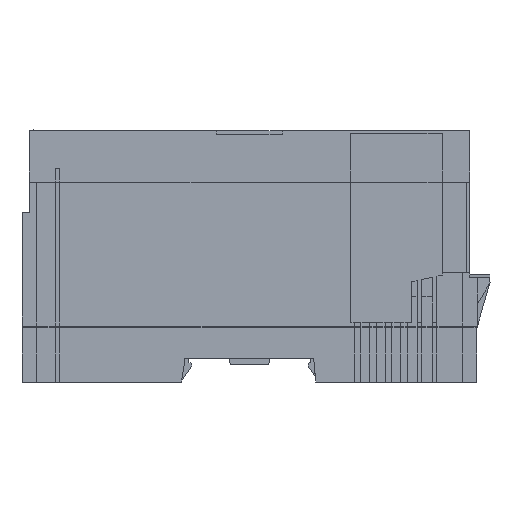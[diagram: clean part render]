
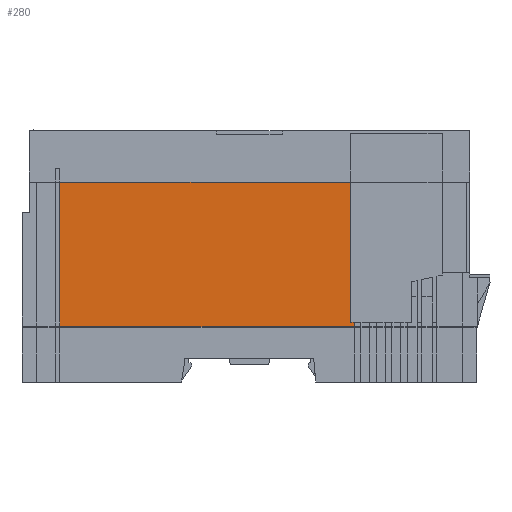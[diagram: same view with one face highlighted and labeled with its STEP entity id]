
A CAD part, front view. The second image highlights one B-rep face of the part: STEP entity #280.
In plain terms, the highlighted free-form (B-spline) face has degree [1, 1] with [2, 2] control points.
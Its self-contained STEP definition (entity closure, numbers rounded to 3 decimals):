
#280=ADVANCED_FACE('',(#540),#3581,.T.);
#540=FACE_OUTER_BOUND('',#795,.T.);
#795=EDGE_LOOP('',(#1475,#1476,#1477,#1478,#1479,#1480));
#1475=ORIENTED_EDGE('',*,*,#2638,.T.);
#1476=ORIENTED_EDGE('',*,*,#2578,.F.);
#1477=ORIENTED_EDGE('',*,*,#2595,.F.);
#1478=ORIENTED_EDGE('',*,*,#2644,.T.);
#1479=ORIENTED_EDGE('',*,*,#2606,.T.);
#1480=ORIENTED_EDGE('',*,*,#2387,.T.);
#2387=EDGE_CURVE('',#3090,#3091,#3793,.T.);
#2578=EDGE_CURVE('',#3221,#3222,#3954,.T.);
#2595=EDGE_CURVE('',#3235,#3221,#3971,.T.);
#2606=EDGE_CURVE('',#3242,#3090,#3982,.T.);
#2638=EDGE_CURVE('',#3091,#3222,#4014,.T.);
#2644=EDGE_CURVE('',#3235,#3242,#4020,.T.);
#3090=VERTEX_POINT('',#6635);
#3091=VERTEX_POINT('',#6636);
#3221=VERTEX_POINT('',#6766);
#3222=VERTEX_POINT('',#6767);
#3235=VERTEX_POINT('',#6780);
#3242=VERTEX_POINT('',#6787);
#3581=B_SPLINE_SURFACE_WITH_KNOTS('',1,1,((#6333,#6334),(#6335,#6336)),.UNSPECIFIED.,
.F.,.F.,.F.,(2,2),(2,2),(7.414,87.72),(8.29,
47.79),.UNSPECIFIED.);
#3793=B_SPLINE_CURVE_WITH_KNOTS('',3,(#4540,#4541,#4542,#4543),.UNSPECIFIED.,
.F.,.F.,(4,4),(-110.88,-30.573),.UNSPECIFIED.);
#3954=B_SPLINE_CURVE_WITH_KNOTS('',3,(#5239,#5240,#5241,#5242),.UNSPECIFIED.,
.F.,.F.,(4,4),(0.,1.077),.UNSPECIFIED.);
#3971=B_SPLINE_CURVE_WITH_KNOTS('',1,(#5305,#5306),.UNSPECIFIED.,.F.,.F.,
(2,2),(3.07,41.308),.UNSPECIFIED.);
#3982=B_SPLINE_CURVE_WITH_KNOTS('',3,(#5337,#5338,#5339,#5340),.UNSPECIFIED.,
.F.,.F.,(4,4),(6.436,45.936),.UNSPECIFIED.);
#4014=B_SPLINE_CURVE_WITH_KNOTS('',3,(#5413,#5414,#5415,#5416),.UNSPECIFIED.,
.F.,.F.,(4,4),(-8.212,-6.95),.UNSPECIFIED.);
#4020=B_SPLINE_CURVE_WITH_KNOTS('',3,(#5435,#5436,#5437,#5438),.UNSPECIFIED.,
.F.,.F.,(4,4),(31.65,110.88),.UNSPECIFIED.);
#4540=CARTESIAN_POINT('',(-59.302,-25.325,2.416));
#4541=CARTESIAN_POINT('',(-32.534,-25.325,2.416));
#4542=CARTESIAN_POINT('',(-5.765,-25.325,2.416));
#4543=CARTESIAN_POINT('',(21.004,-25.325,2.416));
#5239=CARTESIAN_POINT('',(19.927,-25.325,3.678));
#5240=CARTESIAN_POINT('',(20.286,-25.325,3.678));
#5241=CARTESIAN_POINT('',(20.645,-25.325,3.678));
#5242=CARTESIAN_POINT('',(21.004,-25.325,3.678));
#5305=CARTESIAN_POINT('',(19.927,-25.325,41.916));
#5306=CARTESIAN_POINT('',(19.927,-25.325,3.678));
#5337=CARTESIAN_POINT('',(-59.302,-25.325,41.916));
#5338=CARTESIAN_POINT('',(-59.302,-25.325,28.75));
#5339=CARTESIAN_POINT('',(-59.302,-25.325,15.583));
#5340=CARTESIAN_POINT('',(-59.302,-25.325,2.416));
#5413=CARTESIAN_POINT('',(21.004,-25.325,2.416));
#5414=CARTESIAN_POINT('',(21.004,-25.325,2.837));
#5415=CARTESIAN_POINT('',(21.004,-25.325,3.258));
#5416=CARTESIAN_POINT('',(21.004,-25.325,3.678));
#5435=CARTESIAN_POINT('',(19.927,-25.325,41.916));
#5436=CARTESIAN_POINT('',(-6.483,-25.325,41.916));
#5437=CARTESIAN_POINT('',(-32.892,-25.325,41.916));
#5438=CARTESIAN_POINT('',(-59.302,-25.325,41.916));
#6333=CARTESIAN_POINT('',(-59.302,-25.325,2.416));
#6334=CARTESIAN_POINT('',(-59.302,-25.325,41.916));
#6335=CARTESIAN_POINT('',(21.004,-25.325,2.416));
#6336=CARTESIAN_POINT('',(21.004,-25.325,41.916));
#6635=CARTESIAN_POINT('',(-59.302,-25.325,2.416));
#6636=CARTESIAN_POINT('',(21.004,-25.325,2.416));
#6766=CARTESIAN_POINT('',(19.927,-25.325,3.678));
#6767=CARTESIAN_POINT('',(21.004,-25.325,3.678));
#6780=CARTESIAN_POINT('',(19.927,-25.325,41.916));
#6787=CARTESIAN_POINT('',(-59.302,-25.325,41.916));
